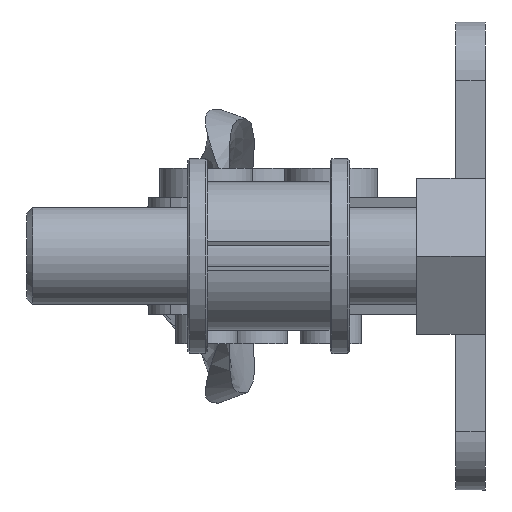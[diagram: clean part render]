
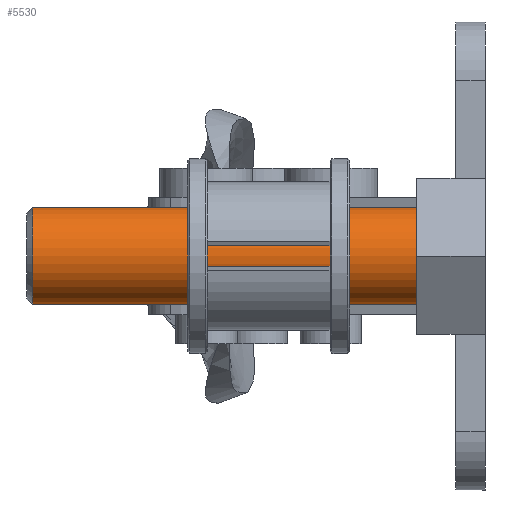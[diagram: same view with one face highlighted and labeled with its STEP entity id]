
A CAD part, left-side view. The second image highlights one B-rep face of the part: STEP entity #5530.
In plain terms, the highlighted cylindrical face has radius 2.5 mm (diameter 5 mm), a partial arc.
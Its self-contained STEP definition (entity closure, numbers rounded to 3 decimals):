
#3 = ORIENTED_EDGE ( 'NONE', *, *, #5479, .T. ) ;
#4 = ORIENTED_EDGE ( 'NONE', *, *, #5498, .F. ) ;
#5 = ORIENTED_EDGE ( 'NONE', *, *, #5802, .T. ) ;
#9 = ORIENTED_EDGE ( 'NONE', *, *, #5638, .T. ) ;
#347 = AXIS2_PLACEMENT_3D ( 'NONE', #7136, #7137, #7138 ) ;
#370 = AXIS2_PLACEMENT_3D ( 'NONE', #6579, #6574, #6581 ) ;
#420 = CIRCLE ( 'NONE', #347, 2.5 ) ;
#509 = CIRCLE ( 'NONE', #511, 2.5 ) ;
#511 = AXIS2_PLACEMENT_3D ( 'NONE', #7357, #7358, #7359 ) ;
#1305 = CARTESIAN_POINT ( 'NONE',  ( 0., -19.7, -2.5 ) ) ;
#3546 = VERTEX_POINT ( 'NONE', #1305 ) ;
#4738 = VECTOR ( 'NONE', #6458, 1000. ) ;
#4804 = VECTOR ( 'NONE', #6402, 1000. ) ;
#5479 = EDGE_CURVE ( 'NONE', #6224, #5728, #6399, .T. ) ;
#5498 = EDGE_CURVE ( 'NONE', #3546, #5733, #6450, .T. ) ;
#5530 = ADVANCED_FACE ( 'NONE', ( #6578 ), #6580, .T. ) ;
#5638 = EDGE_CURVE ( 'NONE', #5728, #5733, #420, .T. ) ;
#5728 = VERTEX_POINT ( 'NONE', #7160 ) ;
#5733 = VERTEX_POINT ( 'NONE', #7165 ) ;
#5802 = EDGE_CURVE ( 'NONE', #3546, #6224, #509, .T. ) ;
#6051 = EDGE_LOOP ( 'NONE', ( #4, #5, #3, #9 ) ) ;
#6224 = VERTEX_POINT ( 'NONE', #7391 ) ;
#6399 = LINE ( 'NONE', #6401, #4804 ) ;
#6401 = CARTESIAN_POINT ( 'NONE',  ( 0., -20., 2.5 ) ) ;
#6402 = DIRECTION ( 'NONE',  ( 0., 1., 0. ) ) ;
#6450 = LINE ( 'NONE', #6457, #4738 ) ;
#6457 = CARTESIAN_POINT ( 'NONE',  ( 0., -20., -2.5 ) ) ;
#6458 = DIRECTION ( 'NONE',  ( 0., 1., 0. ) ) ;
#6574 = DIRECTION ( 'NONE',  ( 0., 1., 0. ) ) ;
#6578 = FACE_OUTER_BOUND ( 'NONE', #6051, .T. ) ;
#6579 = CARTESIAN_POINT ( 'NONE',  ( 0., -20., 0. ) ) ;
#6580 = CYLINDRICAL_SURFACE ( 'NONE', #370, 2.5 ) ;
#6581 = DIRECTION ( 'NONE',  ( 0., 0., 1. ) ) ;
#7136 = CARTESIAN_POINT ( 'NONE',  ( 0., 0., 0. ) ) ;
#7137 = DIRECTION ( 'NONE',  ( 0., -1., 0. ) ) ;
#7138 = DIRECTION ( 'NONE',  ( 0., 0., 1. ) ) ;
#7160 = CARTESIAN_POINT ( 'NONE',  ( 0., 0., 2.5 ) ) ;
#7165 = CARTESIAN_POINT ( 'NONE',  ( 0., 0., -2.5 ) ) ;
#7357 = CARTESIAN_POINT ( 'NONE',  ( 0., -19.7, 0. ) ) ;
#7358 = DIRECTION ( 'NONE',  ( 0., 1., 0. ) ) ;
#7359 = DIRECTION ( 'NONE',  ( 0., 0., -1. ) ) ;
#7391 = CARTESIAN_POINT ( 'NONE',  ( 0., -19.7, 2.5 ) ) ;
